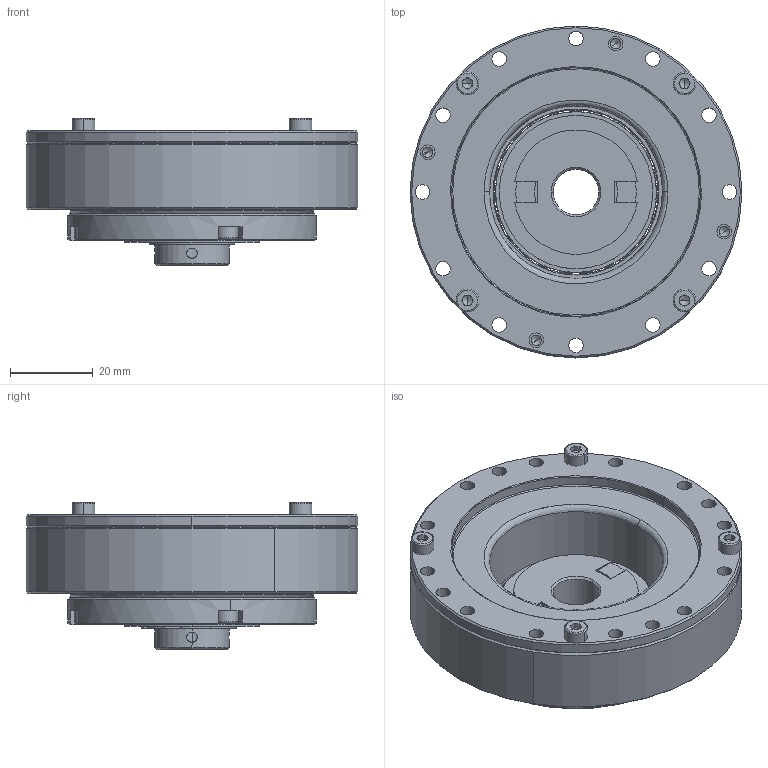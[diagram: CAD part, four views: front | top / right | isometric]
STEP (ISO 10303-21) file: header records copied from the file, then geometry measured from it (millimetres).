
FILE_DESCRIPTION (( 'STEP AP203' ), '1' );
FILE_NAME ('LHSG-17-XXX-C-II-S0.step', '2025-01-07T07:23:49', ( '' ), ( '' ), 'SwSTEP 2.0', 'SolidWorks 2023', '' );
FILE_SCHEMA (( 'CONFIG_CONTROL_DESIGN' ));
Length unit declared in the file: metre
Products named in the file (1): LHSG-17-XXX-C-II-S0
Bounding box: 80 x 80 x 35.5 mm (x, y, z)
Volume: 76051.2 mm3; surface area: 67757.6 mm2
Topology: 44 solids, 44 shells, 918 faces, 2303 edges, 1373 vertices
Faces by surface type: cylinder 393, plane 260, cone 145, bspline 120
Entity records: 30055 total; most frequent: CARTESIAN_POINT 8339, DIRECTION 4822, ORIENTED_EDGE 4278, EDGE_CURVE 2139, AXIS2_PLACEMENT_3D 1972, VERTEX_POINT 1373, CIRCLE 1173, EDGE_LOOP 1134
